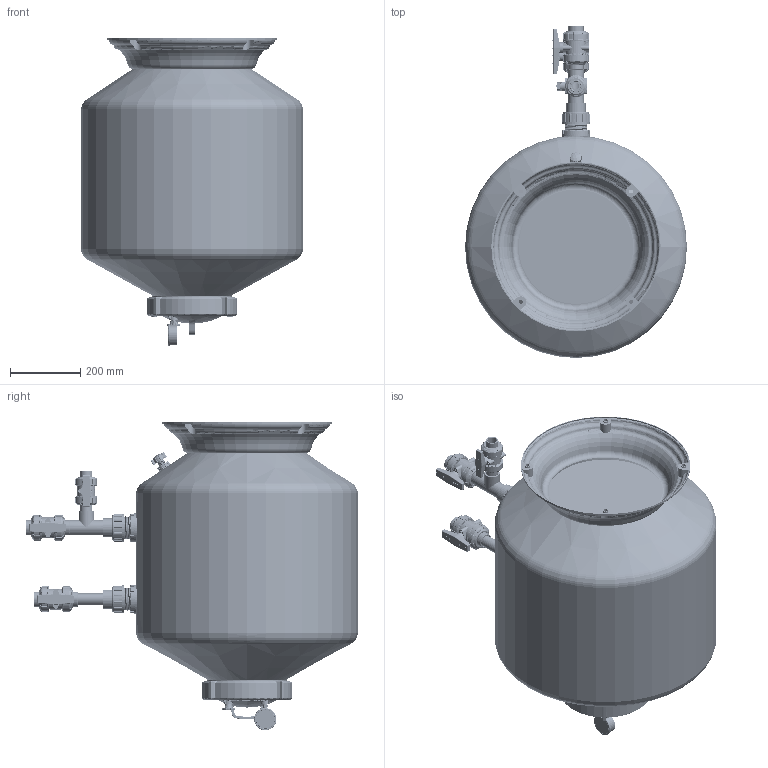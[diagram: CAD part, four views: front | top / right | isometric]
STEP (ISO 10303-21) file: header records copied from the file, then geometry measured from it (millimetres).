
FILE_DESCRIPTION (( 'STEP AP214' ), '1' );
FILE_NAME ('BROM-100.STEP', '2026-04-09T00:49:29', ( '' ), ( '' ), 'SwSTEP 2.0', 'SolidWorks 2020', '' );
FILE_SCHEMA (( 'AUTOMOTIVE_DESIGN' ));
Length unit declared in the file: millimetre
Products named in the file (1): BROM-100
Bounding box: 634 x 947.99 x 881.65 mm (x, y, z)
Volume: 10219221.5 mm3; surface area: 7677741.3 mm2
Topology: 68 solids, 69 shells, 8919 faces, 23787 edges, 14991 vertices
Faces by surface type: plane 2752, cylinder 2658, bspline 1626, torus 1303, cone 556, sphere 24
Entity records: 496415 total; most frequent: CARTESIAN_POINT 185876, ORIENTED_EDGE 47420, DIRECTION 41789, EDGE_CURVE 23710, AXIS2_PLACEMENT_3D 16382, VERTEX_POINT 14988, EDGE_LOOP 9362, CIRCLE 9088
